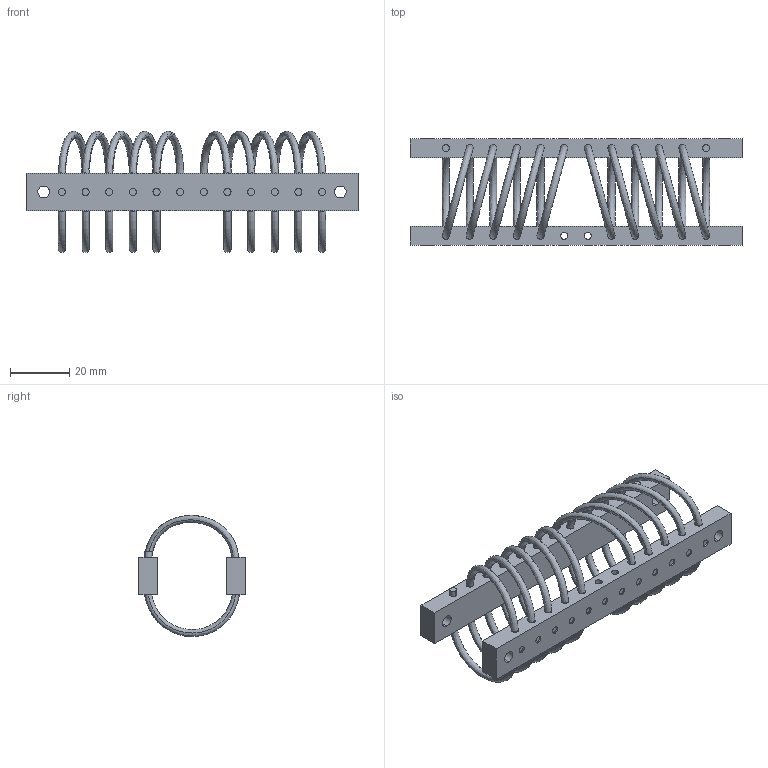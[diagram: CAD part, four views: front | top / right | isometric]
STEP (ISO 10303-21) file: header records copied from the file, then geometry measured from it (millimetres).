
FILE_DESCRIPTION (( 'STEP AP214' ), '1' );
FILE_NAME ('WR3-700-10DM.STEP', '2018-12-07T09:48:28', ( 'user' ), ( 'Microsoft' ), 'SwSTEP 2.0', 'SolidWorks 2016', '' );
FILE_SCHEMA (( 'AUTOMOTIVE_DESIGN' ));
Length unit declared in the file: millimetre
Products named in the file (1): WR3-700-10DM
Bounding box: 112.3 x 36 x 40.97 mm (x, y, z)
Volume: 21661.7 mm3; surface area: 20097.9 mm2
Topology: 24 solids, 24 shells, 308 faces, 688 edges, 452 vertices
Faces by surface type: cylinder 188, plane 80, bspline 40
Entity records: 19449 total; most frequent: CARTESIAN_POINT 12349, ORIENTED_EDGE 1376, DIRECTION 1342, EDGE_CURVE 688, AXIS2_PLACEMENT_3D 565, VERTEX_POINT 452, EDGE_LOOP 388, ADVANCED_FACE 308
